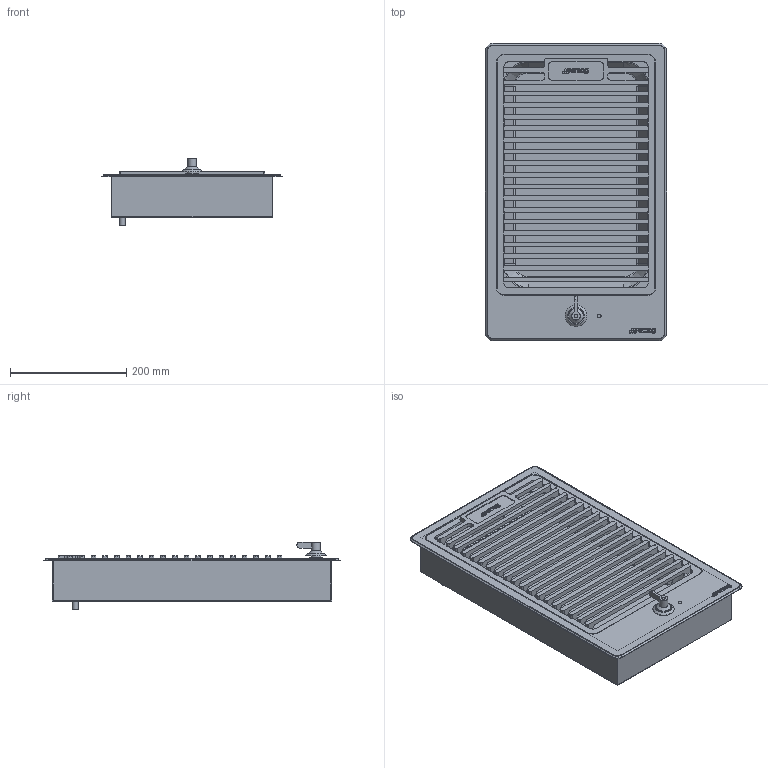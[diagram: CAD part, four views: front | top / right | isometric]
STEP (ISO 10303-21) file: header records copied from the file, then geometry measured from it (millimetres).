
FILE_DESCRIPTION(/* description */ (''),/* implementation_level */ '2;1');
FILE_NAME(/* name */ 'piano pgf30b.stp',/* time_stamp */ '2018-11-07T10:19:59+01:00',/* author */ (''),/* organization */ (''),/* preprocessor_version */ 'ST-DEVELOPER v16',/* originating_system */ 'SIEMENS PLM Software NX 11.0',/* authorisation */ '');
FILE_SCHEMA (('AUTOMOTIVE_DESIGN { 1 0 10303 214 3 1 1 1 }'));
Length unit declared in the file: millimetre
Products named in the file (1): gobb29B8FD47tbpg
Bounding box: 311.6 x 511.6 x 116 mm (x, y, z)
Volume: 922468.8 mm3; surface area: 1131378 mm2
Topology: 26 solids, 26 shells, 677 faces, 1890 edges, 1246 vertices
Faces by surface type: plane 380, cylinder 231, torus 26, extrusion 22, cone 18
Full cylindrical faces by diameter (mm): 3.988 x12, 6 x1, 6.2 x3, 8 x1, 10 x5, 11.5 x4, 14.996 x1, 17 x1, 20 x1, 22 x1
Entity records: 22391 total; most frequent: CARTESIAN_POINT 4401, DIRECTION 3732, ORIENTED_EDGE 3692, EDGE_CURVE 1846, AXIS2_PLACEMENT_3D 1256, VERTEX_POINT 1241, VECTOR 1220, LINE 1198
